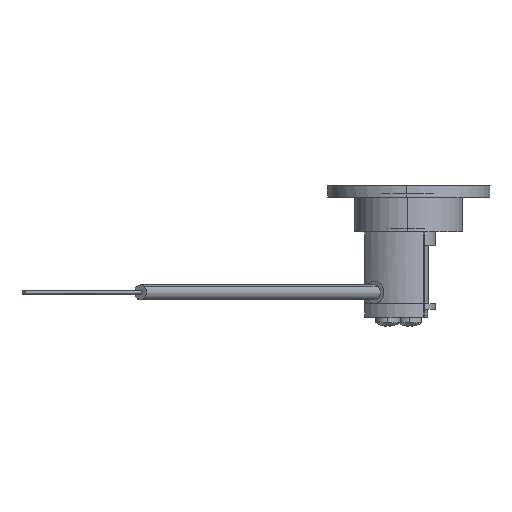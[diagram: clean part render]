
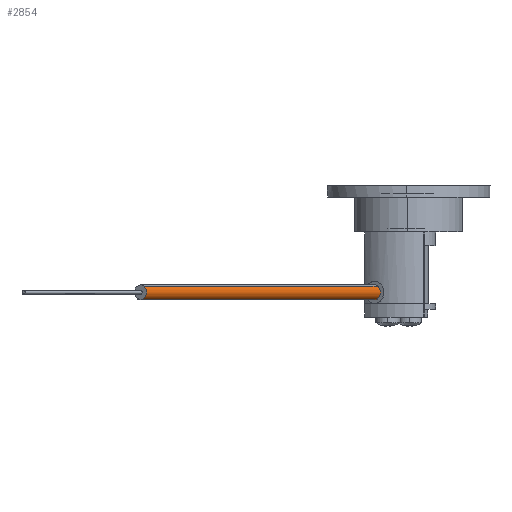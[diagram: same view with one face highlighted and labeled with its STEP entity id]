
A CAD part, left-side view. The second image highlights one B-rep face of the part: STEP entity #2854.
In plain terms, the highlighted cylindrical face has radius 1.95 mm (diameter 3.9 mm), a partial arc.
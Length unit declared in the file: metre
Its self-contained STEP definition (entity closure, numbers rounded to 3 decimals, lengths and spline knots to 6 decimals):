
#330 = VERTEX_POINT ( 'NONE', #1266 ) ;
#426 = VERTEX_POINT ( 'NONE', #3971 ) ;
#552 = DIRECTION ( 'NONE',  ( -1., 0., 0. ) ) ;
#617 = EDGE_CURVE ( 'NONE', #2554, #5519, #2570, .T. ) ;
#825 = LINE ( 'NONE', #4028, #4935 ) ;
#1113 = ORIENTED_EDGE ( 'NONE', *, *, #617, .F. ) ;
#1240 = ORIENTED_EDGE ( 'NONE', *, *, #1510, .T. ) ;
#1266 = CARTESIAN_POINT ( 'NONE',  ( 0.00195, 0., 0. ) ) ;
#1412 = AXIS2_PLACEMENT_3D ( 'NONE', #5006, #5460, #552 ) ;
#1510 = EDGE_CURVE ( 'NONE', #2554, #426, #2905, .T. ) ;
#1746 = ORIENTED_EDGE ( 'NONE', *, *, #5566, .F. ) ;
#1765 = CIRCLE ( 'NONE', #3097, 0.00195 ) ;
#1819 = EDGE_CURVE ( 'NONE', #5519, #330, #825, .T. ) ;
#2158 = FACE_OUTER_BOUND ( 'NONE', #4750, .T. ) ;
#2417 = VECTOR ( 'NONE', #5179, 1. ) ;
#2554 = VERTEX_POINT ( 'NONE', #2981 ) ;
#2570 = CIRCLE ( 'NONE', #4111, 0.00195 ) ;
#2820 = DIRECTION ( 'NONE',  ( 0., 0., 1. ) ) ;
#2840 = CARTESIAN_POINT ( 'NONE',  ( 0., 0., 0.1 ) ) ;
#2854 = ADVANCED_FACE ( 'NONE', ( #2158 ), #3559, .T. ) ;
#2905 = LINE ( 'NONE', #3921, #2417 ) ;
#2981 = CARTESIAN_POINT ( 'NONE',  ( -0.00195, 0., 0.1 ) ) ;
#3097 = AXIS2_PLACEMENT_3D ( 'NONE', #3864, #4777, #4331 ) ;
#3351 = CARTESIAN_POINT ( 'NONE',  ( 0.00195, 0., 0.1 ) ) ;
#3559 = CYLINDRICAL_SURFACE ( 'NONE', #1412, 0.00195 ) ;
#3864 = CARTESIAN_POINT ( 'NONE',  ( 0., 0., 0. ) ) ;
#3921 = CARTESIAN_POINT ( 'NONE',  ( -0.00195, 0., 0.1 ) ) ;
#3971 = CARTESIAN_POINT ( 'NONE',  ( -0.00195, 0., 0. ) ) ;
#4028 = CARTESIAN_POINT ( 'NONE',  ( 0.00195, 0., 0.1 ) ) ;
#4111 = AXIS2_PLACEMENT_3D ( 'NONE', #2840, #2820, #5029 ) ;
#4331 = DIRECTION ( 'NONE',  ( -1., 0., 0. ) ) ;
#4750 = EDGE_LOOP ( 'NONE', ( #5010, #1113, #1240, #1746 ) ) ;
#4777 = DIRECTION ( 'NONE',  ( 0., 0., -1. ) ) ;
#4935 = VECTOR ( 'NONE', #5345, 1. ) ;
#5006 = CARTESIAN_POINT ( 'NONE',  ( 0., 0., 0.1 ) ) ;
#5010 = ORIENTED_EDGE ( 'NONE', *, *, #1819, .F. ) ;
#5029 = DIRECTION ( 'NONE',  ( -1., 0., 0. ) ) ;
#5179 = DIRECTION ( 'NONE',  ( 0., 0., -1. ) ) ;
#5345 = DIRECTION ( 'NONE',  ( 0., 0., -1. ) ) ;
#5460 = DIRECTION ( 'NONE',  ( 0., 0., -1. ) ) ;
#5519 = VERTEX_POINT ( 'NONE', #3351 ) ;
#5566 = EDGE_CURVE ( 'NONE', #330, #426, #1765, .T. ) ;
